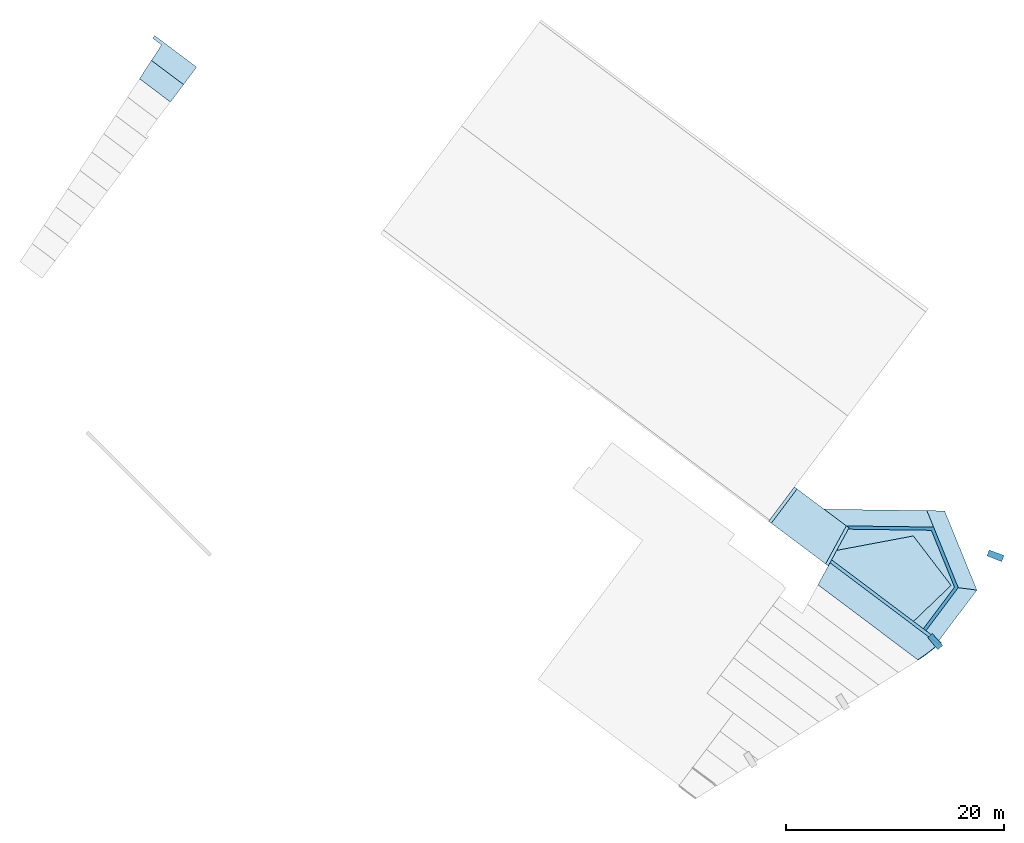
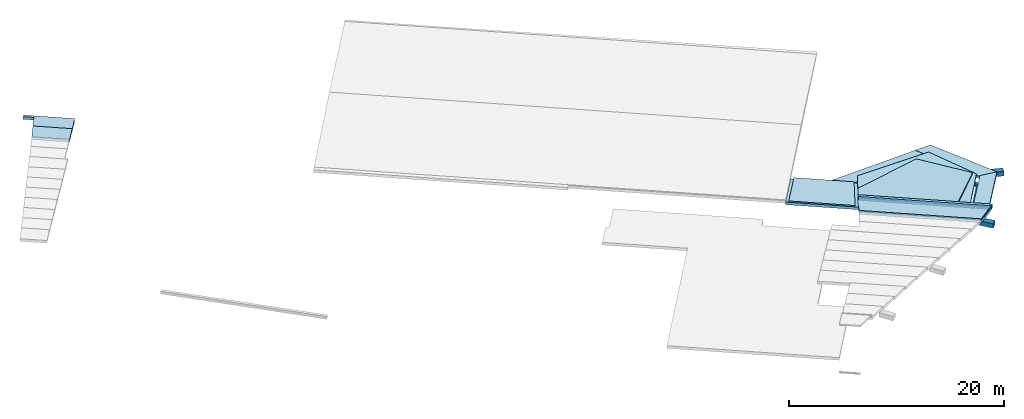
# One storey, part 2 of 2: 16 slabs.
"""IFC2X3 building model written with IfcOpenShell, lengths in metres."""

import ifcopenshell
import ifcopenshell.guid

model = None  # the IFC model being written
_history = None  # IfcOwnerHistory: only IFC2X3 demands one
_inside = {}  # id of a spatial element -> (the spatial element, [elements in it])
_under = {}  # id of a project, library or spatial element -> (it, [spatial elements below it])
_declared = {}  # id of a project -> (the project, [libraries it declares])
_typed = {}  # id of a type object -> (the type object, [elements of that type])
_made_of = {}  # id of a material, layer set ... -> (it, [elements and type objects made of it])


def new_model(schema):
    """Start an empty IFC model of exactly this schema.

    Asked for "IFC4X3", IfcOpenShell would pick the latest addendum, in which some entities
    have other attributes; the version numbers below select the first issue.
    IFC2X3 requires an IfcOwnerHistory on every rooted entity: one is made here for all.
    """
    global model, _history
    if schema == "IFC4X3":
        model = ifcopenshell.file(schema_version=(4, 3, 0, 0))
    else:
        model = ifcopenshell.file(schema=schema)
    _inside.clear()
    _under.clear()
    _declared.clear()
    _typed.clear()
    _made_of.clear()
    _history = None
    if model.schema == "IFC2X3":
        org = make("IfcOrganization", Name="unknown")
        user = make(
            "IfcPersonAndOrganization",
            ThePerson=make("IfcPerson", FamilyName="unknown"),
            TheOrganization=org,
        )
        app = make(
            "IfcApplication",
            ApplicationDeveloper=org,
            Version="unknown",
            ApplicationFullName="unknown",
            ApplicationIdentifier="unknown",
        )
        _history = make(
            "IfcOwnerHistory",
            OwningUser=user,
            OwningApplication=app,
            ChangeAction="ADDED",
            CreationDate=0,
        )
    return model


def make(cls, **values):
    """One entity of the class cls with the attributes given. An attribute that is None is left unset."""
    return model.create_entity(
        cls, **{name: value for name, value in values.items() if value is not None}
    )


def entity(cls, *values):
    """Any entity or typed value of the class cls, its attributes in the order of the schema. None: left unset."""
    e = model.create_entity(cls)
    for i, value in enumerate(values):
        if value is not None:
            e[i] = value
    return e


def rooted(cls, **values):
    """An entity with a GlobalId (a new one), such as an element, a storey or a relation."""
    return make(cls, GlobalId=ifcopenshell.guid.new(), OwnerHistory=_history, **values)


def si_unit(unit_type, name, prefix=None):
    """IfcSIUnit, for example si_unit("LENGTHUNIT", "METRE", prefix="MILLI")."""
    return make("IfcSIUnit", UnitType=unit_type, Prefix=prefix, Name=name)


def converted_unit(unit_type, name, factor, base, dimensions=None, offset=None):
    """IfcConversionBasedUnit, such as the inch: factor (a typed value) times the base unit."""
    return make(
        "IfcConversionBasedUnit"
        if offset is None
        else "IfcConversionBasedUnitWithOffset",
        ConversionOffset=offset,
        Dimensions=None
        if dimensions is None
        else entity("IfcDimensionalExponents", *dimensions),
        UnitType=unit_type,
        Name=name,
        ConversionFactor=make(
            "IfcMeasureWithUnit", ValueComponent=factor, UnitComponent=base
        ),
    )


def derived_unit(unit_type, elements):
    """IfcDerivedUnit: a product of units, each with its exponent."""
    return make(
        "IfcDerivedUnit",
        Elements=[
            make("IfcDerivedUnitElement", Unit=unit, Exponent=power)
            for unit, power in elements
        ],
        UnitType=unit_type,
    )


def assignment(units):
    """IfcUnitAssignment: the units of a project."""
    return None if units is None else make("IfcUnitAssignment", Units=units)


def point(xyz):
    """IfcCartesianPoint."""
    return None if xyz is None else make("IfcCartesianPoint", Coordinates=xyz)


def direction(xyz):
    """IfcDirection."""
    return None if xyz is None else make("IfcDirection", DirectionRatios=xyz)


def frame(location, z_axis=None, x_axis=None):
    """IfcAxis2Placement3D, a coordinate frame: its origin and axes. An axis left out is left unset."""
    return make(
        "IfcAxis2Placement3D",
        Location=point(location),
        Axis=direction(z_axis),
        RefDirection=direction(x_axis),
    )


def frame_2d(location, x_axis=None):
    """IfcAxis2Placement2D, a coordinate frame in the plane: its origin and x axis."""
    return make(
        "IfcAxis2Placement2D", Location=point(location), RefDirection=direction(x_axis)
    )


def origin():
    """The frame at (0, 0, 0) with its axes left unset."""
    return frame((0.0, 0.0, 0.0))


def place(relative_to, where):
    """IfcLocalPlacement: puts the frame where relative to a parent placement (None: the world)."""
    return make(
        "IfcLocalPlacement", PlacementRelTo=relative_to, RelativePlacement=where
    )


def context(
    kind, dimensions, precision=None, world=None, true_north=None, identifier=None
):
    """IfcGeometricRepresentationContext, for example the 3D "Model" context."""
    return make(
        "IfcGeometricRepresentationContext",
        ContextIdentifier=identifier,
        ContextType=kind,
        CoordinateSpaceDimension=dimensions,
        Precision=precision,
        WorldCoordinateSystem=world,
        TrueNorth=true_north,
    )


def subcontext(parent, identifier, kind, view, scale=None):
    """IfcGeometricRepresentationSubContext, for example "Body" below "Model"."""
    return make(
        "IfcGeometricRepresentationSubContext",
        ContextIdentifier=identifier,
        ContextType=kind,
        ParentContext=parent,
        TargetScale=scale,
        TargetView=view,
    )


def project(units=None, contexts=None):
    """IfcProject with its units and contexts."""
    return rooted(
        "IfcProject",
        Name="project",
        RepresentationContexts=contexts,
        UnitsInContext=assignment(units),
    )


def spatial(cls, under=None, at=None, **own):
    """A site, building, storey or space (cls), placed at a placement, below another one or the project."""
    s = rooted(cls, ObjectPlacement=at, **own)
    if under is not None:
        _under.setdefault(under.id(), (under, []))[1].append(s)
    return s


def polyline(points):
    """IfcPolyline through the points."""
    return make("IfcPolyline", Points=[point(p) for p in points])


def circle_curve(where, radius):
    """IfcCircle in the frame where."""
    return make("IfcCircle", Position=where, Radius=radius)


def ellipse_curve(where, semi_axis1, semi_axis2):
    """IfcEllipse in the frame where."""
    return make(
        "IfcEllipse", Position=where, SemiAxis1=semi_axis1, SemiAxis2=semi_axis2
    )


def parameter(value):
    """IfcParameterValue: where a trimmed curve begins or ends, as a parameter of its basis curve."""
    return model.create_entity("IfcParameterValue", value)


def trimmed(basis, trim1, trim2, sense, master):
    """IfcTrimmedCurve: the piece of a basis curve between two trims."""
    return make(
        "IfcTrimmedCurve",
        BasisCurve=basis,
        Trim1=trim1,
        Trim2=trim2,
        SenseAgreement=sense,
        MasterRepresentation=master,
    )


def segment(curve, same_sense, transition):
    """IfcCompositeCurveSegment."""
    return make(
        "IfcCompositeCurveSegment",
        Transition=transition,
        SameSense=same_sense,
        ParentCurve=curve,
    )


def composite_curve(segments, self_intersect=None):
    """IfcCompositeCurve: segments joined end to end."""
    return make("IfcCompositeCurve", Segments=segments, SelfIntersect=self_intersect)


def outline(outer, holes=None, kind="AREA"):
    """IfcArbitraryClosedProfileDef: a profile drawn as a closed curve; with holes, ...WithVoids."""
    if holes is None:
        return make("IfcArbitraryClosedProfileDef", ProfileType=kind, OuterCurve=outer)
    return make(
        "IfcArbitraryProfileDefWithVoids",
        ProfileType=kind,
        OuterCurve=outer,
        InnerCurves=holes,
    )


def extrude(swept, where, along, depth):
    """IfcExtrudedAreaSolid: the profile swept, set in the frame where, extruded along a direction by depth."""
    return make(
        "IfcExtrudedAreaSolid",
        SweptArea=swept,
        Position=where,
        ExtrudedDirection=direction(along),
        Depth=depth,
    )


def clip(a, b, op="DIFFERENCE"):
    """IfcBooleanClippingResult: the solid a cut by the half space b."""
    return make(
        "IfcBooleanClippingResult", Operator=op, FirstOperand=a, SecondOperand=b
    )


def halfspace(plane, agree):
    """IfcHalfSpaceSolid: all space on one side of the plane z = 0 of the frame plane."""
    return make(
        "IfcHalfSpaceSolid",
        BaseSurface=make("IfcPlane", Position=plane),
        AgreementFlag=agree,
    )


def shape(context_of_items, identifier, shape_type, items):
    """IfcShapeRepresentation: the items that make up one representation, for example the "Body"."""
    return make(
        "IfcShapeRepresentation",
        ContextOfItems=context_of_items,
        RepresentationIdentifier=identifier,
        RepresentationType=shape_type,
        Items=items,
    )


def material(Name=None, Category=None):
    """IfcMaterial."""
    return make("IfcMaterial", Name=Name, Category=Category)


def layer(
    of_material, thickness, ventilated=None, Name=None, Category=None, Priority=None
):
    """IfcMaterialLayer: one layer of a wall or slab, of a material (None: an air gap)."""
    return make(
        "IfcMaterialLayer",
        Material=of_material,
        LayerThickness=thickness,
        IsVentilated=ventilated,
        Name=Name,
        Category=Category,
        Priority=Priority,
    )


def layer_set(layers, Name=None):
    """IfcMaterialLayerSet."""
    return make("IfcMaterialLayerSet", MaterialLayers=layers, LayerSetName=Name)


def layer_usage(for_layer_set, set_direction, sense, offset, extent=None):
    """IfcMaterialLayerSetUsage: how a layer set lies in its element."""
    return make(
        "IfcMaterialLayerSetUsage",
        ForLayerSet=for_layer_set,
        LayerSetDirection=set_direction,
        DirectionSense=sense,
        OffsetFromReferenceLine=offset,
        ReferenceExtent=extent,
    )


def made_of(thing, what):
    """Note that an element or type object is made of a material, layer set ...; save() writes the relation."""
    if what is not None:
        _made_of.setdefault(what.id(), (what, []))[1].append(thing)
    return thing


def type_object(cls, material=None, **own):
    """A type object (cls), such as IfcWallType, which elements share."""
    return made_of(rooted(cls, **own), material)


def element(
    cls,
    number,
    at=None,
    inside=None,
    cuts=None,
    type_object=None,
    material=None,
    context=None,
    identifier="Body",
    shape_type=None,
    held_by="IfcProductDefinitionShape",
    body=None,
    shapes=None,
    **own,
):
    """One element of the class cls, such as IfcWall. Its Tag is "e" and its number.

    at: its placement. inside: the storey or other place that contains it. cuts: it is an
    opening in that element (IfcRelVoidsElement). A single representation is given by context,
    identifier, shape_type and body (its items); several are given by shapes. held_by: the class
    of the entity that holds the representations. save() writes the other relations.
    """
    e = rooted(cls, Tag="e%d" % number, ObjectPlacement=at, **own)
    if body is not None:
        shapes = [shape(context, identifier, shape_type, body)]
    if shapes is not None:
        e.Representation = make(held_by, Representations=shapes)
    if inside is not None:
        _inside.setdefault(inside.id(), (inside, []))[1].append(e)
    if cuts is not None:
        rooted(
            "IfcRelVoidsElement", RelatingBuildingElement=cuts, RelatedOpeningElement=e
        )
    if type_object is not None:
        _typed.setdefault(type_object.id(), (type_object, []))[1].append(e)
    return made_of(e, material)


def aggregate(whole, parts):
    """IfcRelAggregates: a whole, such as a stair, and the parts it consists of."""
    return rooted("IfcRelAggregates", RelatingObject=whole, RelatedObjects=parts)


def save(model, path):
    """Write the relations noted so far, then the file.

    IfcRelAggregates (storeys below a building ...), IfcRelContainedInSpatialStructure (elements
    in a storey), IfcRelDefinesByType, IfcRelAssociatesMaterial and IfcRelDeclares: one each for
    every whole, place, type object, material and project.
    """
    for whole, parts in _under.values():
        aggregate(whole, parts)
    for where, things in _inside.values():
        rooted(
            "IfcRelContainedInSpatialStructure",
            RelatedElements=things,
            RelatingStructure=where,
        )
    for kind, things in _typed.values():
        rooted("IfcRelDefinesByType", RelatedObjects=things, RelatingType=kind)
    for what, things in _made_of.values():
        rooted("IfcRelAssociatesMaterial", RelatedObjects=things, RelatingMaterial=what)
    for by, libraries in _declared.values():
        rooted("IfcRelDeclares", RelatingContext=by, RelatedDefinitions=libraries)
    model.write(path)


model = new_model("IFC2X3")

# Units and contexts
model_context = context("Model", 3, precision=1e-05, world=origin(), true_north=direction((6.123031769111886e-17, 1.0)))
body_context = subcontext(model_context, "Body", "Model", "MODEL_VIEW")
ifc_project = project(units=[si_unit("LENGTHUNIT", "METRE"), si_unit("AREAUNIT", "SQUARE_METRE"), si_unit("VOLUMEUNIT", "CUBIC_METRE"), converted_unit("PLANEANGLEUNIT", "DEGREE", entity("IfcRatioMeasure", 0.017453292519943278), si_unit("PLANEANGLEUNIT", "RADIAN"), dimensions=[0, 0, 0, 0, 0, 0, 0]), si_unit("MASSUNIT", "GRAM", prefix="KILO"), derived_unit("MASSDENSITYUNIT", [(si_unit("MASSUNIT", "GRAM", prefix="KILO"), 1), (si_unit("LENGTHUNIT", "METRE"), -3)]), derived_unit("IONCONCENTRATIONUNIT", [(si_unit("MASSUNIT", "GRAM", prefix="KILO"), 1), (si_unit("LENGTHUNIT", "METRE"), -3)]), derived_unit("MOMENTOFINERTIAUNIT", [(si_unit("LENGTHUNIT", "METRE"), 4)]), si_unit("TIMEUNIT", "SECOND"), si_unit("FREQUENCYUNIT", "HERTZ"), si_unit("THERMODYNAMICTEMPERATUREUNIT", "DEGREE_CELSIUS"), derived_unit("THERMALTRANSMITTANCEUNIT", [(si_unit("MASSUNIT", "GRAM", prefix="KILO"), 1), (si_unit("THERMODYNAMICTEMPERATUREUNIT", "KELVIN"), -1), (si_unit("TIMEUNIT", "SECOND"), -3)]), derived_unit("THERMALCONDUCTANCEUNIT", [(si_unit("MASSUNIT", "GRAM", prefix="KILO"), 1), (si_unit("THERMODYNAMICTEMPERATUREUNIT", "KELVIN"), -1), (si_unit("TIMEUNIT", "SECOND"), -3), (si_unit("LENGTHUNIT", "METRE"), 1)]), derived_unit("VOLUMETRICFLOWRATEUNIT", [(si_unit("LENGTHUNIT", "METRE"), 3), (si_unit("TIMEUNIT", "SECOND"), -1)]), derived_unit("MASSFLOWRATEUNIT", [(si_unit("MASSUNIT", "GRAM", prefix="KILO"), 1), (si_unit("TIMEUNIT", "SECOND"), -1)]), derived_unit("ROTATIONALFREQUENCYUNIT", [(si_unit("TIMEUNIT", "SECOND"), -1)]), si_unit("ELECTRICCURRENTUNIT", "AMPERE"), si_unit("ELECTRICVOLTAGEUNIT", "VOLT"), si_unit("POWERUNIT", "WATT"), si_unit("FORCEUNIT", "NEWTON", prefix="KILO"), si_unit("ILLUMINANCEUNIT", "LUX"), si_unit("LUMINOUSFLUXUNIT", "LUMEN"), si_unit("LUMINOUSINTENSITYUNIT", "CANDELA"), derived_unit("USERDEFINED", [(si_unit("MASSUNIT", "GRAM", prefix="KILO"), -1), (si_unit("LENGTHUNIT", "METRE"), -2), (si_unit("TIMEUNIT", "SECOND"), 3), (si_unit("LUMINOUSFLUXUNIT", "LUMEN"), 1)]), derived_unit("USERDEFINED", [(si_unit("MASSUNIT", "GRAM", prefix="KILO"), 1), (si_unit("TIMEUNIT", "SECOND"), -3), (si_unit("LENGTHUNIT", "METRE"), 3), (si_unit("ELECTRICCURRENTUNIT", "AMPERE"), -2)]), derived_unit("SOUNDPOWERUNIT", [(si_unit("MASSUNIT", "GRAM", prefix="KILO"), 1), (si_unit("TIMEUNIT", "SECOND"), -3), (si_unit("LENGTHUNIT", "METRE"), 2)]), derived_unit("SOUNDPRESSUREUNIT", [(si_unit("MASSUNIT", "GRAM", prefix="KILO"), 1), (si_unit("LENGTHUNIT", "METRE"), -1), (si_unit("TIMEUNIT", "SECOND"), -2)]), derived_unit("LINEARVELOCITYUNIT", [(si_unit("LENGTHUNIT", "METRE"), 1), (si_unit("TIMEUNIT", "SECOND"), -1)]), si_unit("PRESSUREUNIT", "PASCAL"), derived_unit("USERDEFINED", [(si_unit("MASSUNIT", "GRAM", prefix="KILO"), 1), (si_unit("LENGTHUNIT", "METRE"), -2), (si_unit("TIMEUNIT", "SECOND"), -2)]), derived_unit("LINEARFORCEUNIT", [(si_unit("MASSUNIT", "GRAM", prefix="KILO"), 1), (si_unit("TIMEUNIT", "SECOND"), -2)]), derived_unit("PLANARFORCEUNIT", [(si_unit("MASSUNIT", "GRAM", prefix="KILO"), 1), (si_unit("LENGTHUNIT", "METRE"), -1), (si_unit("TIMEUNIT", "SECOND"), -2)]), derived_unit("SPECIFICHEATCAPACITYUNIT", [(si_unit("THERMODYNAMICTEMPERATUREUNIT", "KELVIN"), -1), (si_unit("LENGTHUNIT", "METRE"), 2), (si_unit("TIMEUNIT", "SECOND"), -2)]), derived_unit("HEATINGVALUEUNIT", [(si_unit("LENGTHUNIT", "METRE"), 2), (si_unit("TIMEUNIT", "SECOND"), -2)]), derived_unit("VAPORPERMEABILITYUNIT", [(si_unit("LENGTHUNIT", "METRE"), -1), (si_unit("TIMEUNIT", "SECOND"), 1)]), derived_unit("DYNAMICVISCOSITYUNIT", [(si_unit("MASSUNIT", "GRAM", prefix="KILO"), 1), (si_unit("TIMEUNIT", "SECOND"), -1), (si_unit("LENGTHUNIT", "METRE"), -1)]), derived_unit("THERMALEXPANSIONCOEFFICIENTUNIT", [(si_unit("THERMODYNAMICTEMPERATUREUNIT", "KELVIN"), -1)]), derived_unit("MODULUSOFELASTICITYUNIT", [(si_unit("MASSUNIT", "GRAM", prefix="KILO"), 1), (si_unit("LENGTHUNIT", "METRE"), -1), (si_unit("TIMEUNIT", "SECOND"), -2)]), derived_unit("ISOTHERMALMOISTURECAPACITYUNIT", [(si_unit("LENGTHUNIT", "METRE"), 3), (si_unit("MASSUNIT", "GRAM", prefix="KILO"), -1)]), derived_unit("MOISTUREDIFFUSIVITYUNIT", [(si_unit("TIMEUNIT", "SECOND"), -1), (si_unit("LENGTHUNIT", "METRE"), 2)])], contexts=[model_context])

# Site, building, storey
site_placement = place(None, origin())
site = spatial("IfcSite", under=ifc_project, at=site_placement, Name="Superficie", CompositionType="ELEMENT")
building_placement = place(site_placement, frame((0.0, 0.0, 235.0), z_axis=(0.0, 0.0, 1.0), x_axis=(-0.7996477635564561, 0.6004693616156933, 0.0)))
building = spatial("IfcBuilding", under=site, at=building_placement, CompositionType="ELEMENT")
storey_placement = place(building_placement, frame((0.0, 0.0, -5.4499999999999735)))
storey = spatial("IfcBuildingStorey", under=building, at=storey_placement, Name="PS1- Gimnàs", CompositionType="ELEMENT", Elevation=-5.4499999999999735)

# Slabs
ifc_material_1 = material(Name="_Topografia- Plataformes")
ifc_layer_1 = layer(ifc_material_1, 0.29999999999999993)
ifc_layer_set_1 = layer_set([ifc_layer_1], Name="Plataforma:300 mm")
ifc_layer_usage_1 = layer_usage(ifc_layer_set_1, "AXIS3", "POSITIVE", 0.0)
slab_type_1 = type_object("IfcSlabType", Name="Plataforma:300 mm", PredefinedType="FLOOR", material=ifc_layer_set_1)
slab_1_placement = place(storey_placement, frame((-9.46451760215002, -50.63325695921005, 0.3067704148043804)))
element("IfcSlab", 1, at=slab_1_placement, inside=storey, type_object=slab_type_1, material=ifc_layer_usage_1, Name="Plataforma:300 mm", ObjectType="Plataforma:300 mm", PredefinedType="FLOOR", context=body_context, shape_type="SweptSolid", body=[
    extrude(outline(polyline([(-4.829427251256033, -2.896915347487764), (-4.829427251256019, -7.660011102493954), (5.692533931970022, -7.660011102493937), (6.155302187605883, -4.493083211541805), (0.0, 0.0), (-4.829427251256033, -2.896915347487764)])), frame((4.829427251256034, 0.0, 0.4532295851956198), z_axis=(0.0, -0.01999600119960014, -0.999800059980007), x_axis=(1.0, 0.0, 0.0)), (0.0, -0.01999600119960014, 0.999800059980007), 0.30005999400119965),
])
slab_2_placement = place(storey_placement, frame((0.9646960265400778, -46.276730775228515, -0.5869955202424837)))
element("IfcSlab", 2, at=slab_2_placement, inside=storey, type_object=slab_type_1, material=ifc_layer_usage_1, Name="Plataforma:300 mm", ObjectType="Plataforma:300 mm", PredefinedType="FLOOR", context=body_context, shape_type="SweptSolid", body=[
    extrude(outline(polyline([(-3.423212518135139, 0.0), (-2.8478695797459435, -3.937326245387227), (3.407239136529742, -3.9373262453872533), (3.407239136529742, 0.0), (-3.423212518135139, 0.0)])), frame((3.423212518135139, 3.9365390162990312, 0.37879077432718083), z_axis=(0.0, -0.01999600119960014, 0.999800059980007), x_axis=(1.0, 0.0, 0.0)), (0.0, -0.01999600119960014, -0.999800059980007), 0.30005999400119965),
])
slab_3_placement = place(storey_placement, frame((-11.479473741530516, -42.67477739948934, 0.30594000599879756)))
element("IfcSlab", 3, at=slab_3_placement, inside=storey, type_object=slab_type_1, material=ifc_layer_usage_1, Name="Plataforma:300 mm", ObjectType="Plataforma:300 mm", PredefinedType="FLOOR", context=body_context, shape_type="SweptSolid", body=[
    extrude(outline(composite_curve([segment(polyline([(6.534618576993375, -2.28504251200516), (6.868521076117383, 0.0)]), True, "CONTINUOUS"), segment(polyline([(6.868521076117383, 0.0), (-5.624549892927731, 0.0)]), True, "CONTINUOUS"), segment(trimmed(ellipse_curve(frame_2d((13.90183999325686, 4.327538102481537), x_axis=(1.0, 0.0)), 19.99999999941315, 20.003999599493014), [parameter(192.49378095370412)], [parameter(199.30294628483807)], True, "PARAMETER"), True, "CONTINUOUS"), segment(polyline([(-4.973839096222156, -2.2850425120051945), (6.534618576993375, -2.28504251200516)]), True, "CONTINUOUS")], self_intersect=False)), frame((5.624549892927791, 0.0, 0.30005999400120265), z_axis=(0.0, 0.01999600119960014, -0.999800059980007), x_axis=(1.0, 0.0, 0.0)), (0.0, 0.01999600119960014, 0.999800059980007), 0.30005999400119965),
])
slab_4_placement = place(storey_placement, origin())
element("IfcSlab", 4, at=slab_4_placement, inside=storey, type_object=slab_type_1, material=ifc_layer_usage_1, Name="Plataforma:300 mm", ObjectType="Plataforma:300 mm", PredefinedType="FLOOR", context=body_context, shape_type="SweptSolid", body=[
    extrude(outline(polyline([(-6.301650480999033, -0.14999999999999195), (6.294138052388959, -0.14999999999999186), (6.250291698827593, 0.1499999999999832), (-6.242779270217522, 0.15000000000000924), (-6.301650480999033, -0.14999999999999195)])), frame((-5.2366944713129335, -42.82477739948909, 0.3059999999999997)), (0.0, 0.0, 1.0), 0.2999999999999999),
])
slab_5_placement = place(storey_placement, frame((-11.264517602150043, -52.790557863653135, -0.2714253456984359)))
element("IfcSlab", 5, at=slab_5_placement, inside=storey, type_object=slab_type_1, material=ifc_layer_usage_1, Name="Plataforma:300 mm", ObjectType="Plataforma:300 mm", PredefinedType="FLOOR", context=body_context, shape_type="SweptSolid", body=[
    extrude(outline(polyline([(0.6584924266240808, -0.4800507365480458), (-0.6584924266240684, 0.48005073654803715), (-7.392629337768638, -3.5542046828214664), (-5.890998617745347, -4.403689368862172), (0.6584924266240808, -0.4800507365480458)])), frame((7.384601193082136, 0.480050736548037, 0.3129281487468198), z_axis=(-0.0465913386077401, 0.0, -0.9989140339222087), x_axis=(0.9989140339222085, 0.0, -0.04659133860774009)), (0.04659133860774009, 0.0, 0.9989140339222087), 0.30032614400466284),
])
slab_6_placement = place(storey_placement, frame((-4.618857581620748, -51.83045639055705, -0.646719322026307)))
element("IfcSlab", 6, at=slab_6_placement, inside=storey, type_object=slab_type_1, material=ifc_layer_usage_1, Name="Plataforma:300 mm", ObjectType="Plataforma:300 mm", PredefinedType="FLOOR", context=body_context, shape_type="SweptSolid", body=[
    extrude(outline(polyline([(1.4481689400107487, 0.0), (-6.171007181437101, 5.553725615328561), (-7.5694371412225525, 4.7160763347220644), (-1.0994350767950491, 0.0), (1.4481689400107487, 0.0)])), frame((7.5601733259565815, 5.553725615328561, 0.3469736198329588), z_axis=(-0.049458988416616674, 0.0, -0.9987761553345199), x_axis=(0.9987761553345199, 0.0, -0.049458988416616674)), (0.049458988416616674, 0.0, 0.9987761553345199), 0.30036760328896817),
])
slab_7_placement = place(storey_placement, frame((-11.264517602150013, -48.75630244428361, 0.07535949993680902)))
element("IfcSlab", 7, at=slab_7_placement, inside=storey, type_object=slab_type_1, material=ifc_layer_usage_1, Name="Plataforma:300 mm", ObjectType="Plataforma:300 mm", PredefinedType="FLOOR", context=body_context, shape_type="SweptSolid", body=[
    extrude(outline(polyline([(-0.7500000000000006, 0.42508200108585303), (-0.7499999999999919, -5.361066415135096), (0.7500000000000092, -5.361066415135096), (0.7500000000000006, -0.42508200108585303), (-0.7500000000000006, 0.42508200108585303)])), frame((0.7500000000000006, 0.42474234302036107, 0.3172295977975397), z_axis=(0.0, 0.03996803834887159, -0.9992009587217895), x_axis=(1.0, 0.0, 0.0)), (0.0, 0.03996803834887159, 0.9992009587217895), 0.3002399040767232),
])
slab_8_placement = place(storey_placement, frame((74.74514768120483, -44.14019175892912, 2.098562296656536)))
element("IfcSlab", 8, at=slab_8_placement, inside=storey, type_object=slab_type_1, material=ifc_layer_usage_1, Name="Plataforma:300 mm", ObjectType="Plataforma:300 mm", PredefinedType="FLOOR", context=body_context, shape_type="SweptSolid", body=[
    extrude(outline(polyline([(1.3927724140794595, -0.300958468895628), (2.3998871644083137, -0.300958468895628), (2.3998871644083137, 0.0), (-2.399887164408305, 0.0), (-2.399887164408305, -2.006389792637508), (1.2808184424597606, -2.0063897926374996), (1.3927724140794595, -0.300958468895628)])), frame((2.399887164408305, 0.0, 0.3009584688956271), z_axis=(0.0, 0.07974522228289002, -0.9968152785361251), x_axis=(1.0, 0.0, 0.0)), (0.0, 0.07974522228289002, 0.9968152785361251), 0.3009584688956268),
])
slab_9_placement = place(storey_placement, frame((74.74514768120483, -42.140191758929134, 2.3415622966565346)))
element("IfcSlab", 9, at=slab_9_placement, inside=storey, type_object=slab_type_1, material=ifc_layer_usage_1, Name="Plataforma:300 mm", ObjectType="Plataforma:300 mm", PredefinedType="FLOOR", context=body_context, shape_type="SweptSolid", body=[
    extrude(outline(polyline([(1.2808184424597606, 0.0), (-2.399887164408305, 0.0), (-2.399887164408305, -2.006389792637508), (1.1491078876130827, -2.0063897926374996), (1.2808184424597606, 0.0)])), frame((2.399887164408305, 0.0, 0.3009584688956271), z_axis=(0.0, 0.07974522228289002, -0.9968152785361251), x_axis=(1.0, 0.0, 0.0)), (0.0, 0.07974522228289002, 0.9968152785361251), 0.3009584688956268),
])
slab_10_placement = place(storey_placement, origin())
element("IfcSlab", 10, at=slab_10_placement, inside=storey, type_object=slab_type_1, material=ifc_layer_usage_1, Name="Plataforma:300 mm", ObjectType="Plataforma:300 mm", PredefinedType="FLOOR", context=body_context, shape_type="SweptSolid", body=[
    extrude(outline(polyline([(-2.3137551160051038, -3.4038581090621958), (5.686238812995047, -3.403858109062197), (5.441335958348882, -3.22512620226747), (5.505292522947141, -3.1038581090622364), (-2.1149089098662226, -3.1038581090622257), (-4.30851322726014, 2.0826851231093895), (-1.5011821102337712, 5.92935926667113), (-1.743510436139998, 6.106212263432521), (-4.650997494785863, 2.1223019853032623), (-2.3137551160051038, -3.4038581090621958)])), frame((-4.7565045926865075, -46.879321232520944, -0.8), z_axis=(0.0, 0.0, 1.0), x_axis=(0.8077610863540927, 0.5895099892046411, 0.0)), (0.0, 0.0, 1.0), 0.30000000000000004),
])
ifc_material_2 = material(Name="_Formigó- Solera- T1- STR")
ifc_layer_2 = layer(ifc_material_2, 0.14999999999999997)
ifc_layer_set_2 = layer_set([ifc_layer_2], Name="Suelo:STR- L- Formigó- Solera- T1- 15 cm")
ifc_layer_usage_2 = layer_usage(ifc_layer_set_2, "AXIS3", "POSITIVE", 0.0)
slab_type_2 = type_object("IfcSlabType", Name="Suelo:STR- L- Formigó- Solera- T1- 15 cm", PredefinedType="FLOOR", material=ifc_layer_set_2)
slab_11_placement = place(storey_placement, origin())
element("IfcSlab", 11, at=slab_11_placement, inside=storey, type_object=slab_type_2, material=ifc_layer_usage_2, Name="Suelo:STR- L- Formigó- Solera- T1- 15 cm", ObjectType="Suelo:STR- L- Formigó- Solera- T1- 15 cm", PredefinedType="FLOOR", context=body_context, shape_type="SweptSolid", body=[
    clip(clip(extrude(outline(polyline([(-1.9686668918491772, -2.9697964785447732), (1.9686593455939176, -2.9697964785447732), (1.9686665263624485, 2.6821250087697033), (-1.9686589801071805, 3.257467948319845), (-1.9686668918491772, -2.9697964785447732)])), frame((4.525351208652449, -44.30846126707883, -0.09786251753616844), z_axis=(6.352534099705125e-05, 0.01999590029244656, -0.9998000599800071), x_axis=(0.0, -0.9998000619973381, -0.019995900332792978)), (0.019995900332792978, 6.351263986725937e-05, 0.9998000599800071), 0.15006000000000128), halfspace(frame((4.599543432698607, -42.32764559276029, -0.20827168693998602), z_axis=(6.352534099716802e-05, 0.019995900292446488, -0.9998000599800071), x_axis=(-0.0031762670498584, -0.9997950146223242, -0.01999600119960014)), False)), halfspace(frame((4.599543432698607, -42.32764559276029, -0.05824168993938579), z_axis=(-6.352534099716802e-05, -0.019995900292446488, 0.9998000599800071), x_axis=(0.0031762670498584, 0.9997950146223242, 0.01999600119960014)), False)),
])
slab_12_placement = place(storey_placement, origin())
element("IfcSlab", 12, at=slab_12_placement, inside=storey, type_object=slab_type_2, material=ifc_layer_usage_2, Name="Suelo:STR- L- Formigó- Solera- T1- 15 cm", ObjectType="Suelo:STR- L- Formigó- Solera- T1- 15 cm", PredefinedType="FLOOR", context=body_context, shape_type="SweptSolid", body=[
    extrude(outline(polyline([(-6.29413698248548, -0.15004272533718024), (6.301651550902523, -0.15004272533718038), (6.242763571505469, 0.150042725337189), (-6.250278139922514, 0.15004272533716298), (-6.29413698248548, -0.15004272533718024)])), frame((-5.236693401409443, -42.824734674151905, 0.7559999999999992), z_axis=(0.0, 0.0, -1.0), x_axis=(-1.0, 0.0, 0.0)), (0.0, 0.0, 1.0), 0.15000000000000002),
])
ifc_material_3 = material(Name="_Saulo T1- PAV")
ifc_layer_3 = layer(ifc_material_3, 0.14999999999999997)
ifc_layer_set_3 = layer_set([ifc_layer_3], Name="Suelo:PAV- Saulo- 15 cm- T1")
ifc_layer_usage_3 = layer_usage(ifc_layer_set_3, "AXIS3", "POSITIVE", 0.0)
slab_type_3 = type_object("IfcSlabType", Name="Suelo:PAV- Saulo- 15 cm- T1", PredefinedType="FLOOR", material=ifc_layer_set_3)
slab_13_placement = place(storey_placement, frame((-11.424740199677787, -42.67477739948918, 0.6060057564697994)))
element("IfcSlab", 13, at=slab_13_placement, inside=storey, type_object=slab_type_3, material=ifc_layer_usage_3, Name="Suelo:PAV- Saulo- 15 cm- T1", ObjectType="Suelo:PAV- Saulo- 15 cm- T1", PredefinedType="FLOOR", context=body_context, shape_type="SweptSolid", body=[
    extrude(outline(composite_curve([segment(polyline([(-5.576808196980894, -2.285042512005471), (6.8615417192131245, -2.2850425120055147)]), True, "CONTINUOUS"), segment(polyline([(6.8615417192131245, -2.2850425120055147), (6.527639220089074, 0.0)]), True, "CONTINUOUS"), segment(polyline([(6.527639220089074, 0.0), (-4.927687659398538, 0.0)]), True, "CONTINUOUS"), segment(trimmed(ellipse_curve(frame_2d((13.615037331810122, -6.5043651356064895), x_axis=(1.0, 0.0)), 19.64999999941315, 19.653929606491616), [parameter(160.67387103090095)], [parameter(167.6031949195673)], True, "PARAMETER"), True, "CONTINUOUS")], self_intersect=False)), frame((5.576808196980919, 2.284585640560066, 0.19572170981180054), z_axis=(0.0, -0.01999600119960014, 0.999800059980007), x_axis=(1.0, 0.0, 0.0)), (0.0, -0.01999600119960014, -0.999800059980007), 0.15002999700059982),
])
slab_14_placement = place(storey_placement, origin())
element("IfcSlab", 14, at=slab_14_placement, inside=storey, type_object=slab_type_3, material=ifc_layer_usage_3, Name="Suelo:PAV- Saulo- 15 cm- T1", ObjectType="Suelo:PAV- Saulo- 15 cm- T1", PredefinedType="FLOOR", context=body_context, shape_type="SweptSolid", body=[
    clip(clip(extrude(outline(polyline([(-4.577067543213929, -2.3889775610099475), (4.8199510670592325, -2.3889775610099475), (4.9630927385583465, -1.4093957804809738), (0.1421442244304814, 3.8641159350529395), (-5.348120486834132, 2.323234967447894), (-4.577067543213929, -2.3889775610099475)])), frame((-3.7627814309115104, -45.361402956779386, 0.8045929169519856), z_axis=(0.0, -0.019996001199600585, -0.999800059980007), x_axis=(1.0, 0.0, 0.0)), (0.0, -0.019996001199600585, 0.999800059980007), 0.15006000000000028), halfspace(frame((-5.847932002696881, -49.90400916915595, 0.745415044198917), z_axis=(0.0, -0.01999600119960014, -0.999800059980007), x_axis=(0.0, 0.999800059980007, -0.01999600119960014)), False)), halfspace(frame((-5.847932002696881, -49.90400916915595, 0.8954450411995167), z_axis=(0.0, 0.01999600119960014, 0.999800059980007), x_axis=(0.0, -0.999800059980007, 0.01999600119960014)), False)),
])
ifc_material_4 = material(Name="_Formigó- T1- STR")
slab_type_4 = type_object("IfcSlabType", Name="STR- Sabata- Unio sabata MP4:STR- Sabata- Unio sabata MP1", PredefinedType="BASESLAB", material=ifc_material_4)
slab_15_placement = place(storey_placement, frame((-11.815595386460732, -43.11817126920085, -1.475000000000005)))
element("IfcSlab", 15, at=slab_15_placement, inside=storey, type_object=slab_type_4, Name="STR- Sabata- Unio sabata MP4:STR- Sabata- Unio sabata MP1", ObjectType="STR- Sabata- Unio sabata MP4:STR- Sabata- Unio sabata MP1", PredefinedType="BASESLAB", context=body_context, shape_type="SweptSolid", body=[
    extrude(outline(composite_curve([segment(polyline([(-0.7206013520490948, -0.29114359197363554), (0.7293986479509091, -0.29114359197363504)]), True, "CONTINUOUS"), segment(trimmed(circle_curve(frame_2d((-19.270601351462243, -0.29114359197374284), x_axis=(0.8604584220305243, 0.5095206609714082)), 19.999999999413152), [parameter(329.368093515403)], [parameter(331.0992309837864)], True, "PARAMETER"), True, "CONTINUOUS"), segment(polyline([(0.7202704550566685, 0.31304544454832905), (-0.7290677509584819, 0.26924173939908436)]), True, "CONTINUOUS"), segment(trimmed(circle_curve(frame_2d((-19.270601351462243, -0.29114359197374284), x_axis=(0.8604584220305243, 0.509520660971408)), 18.54999999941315), [parameter(329.3680935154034)], [parameter(331.09923098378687)], True, "PARAMETER"), False, "CONTINUOUS")], self_intersect=False)), frame((0.7749921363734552, 0.43335150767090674, 0.0), z_axis=(0.0, 0.0, 1.0), x_axis=(-0.972457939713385, 0.2330784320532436, 0.0)), (0.0, 0.0, 1.0), 0.5000000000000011),
])
slab_type_5 = type_object("IfcSlabType", Name="STR- Sabata- Unio sabata MP5:STR- Sabata- Unio sabata MP1", PredefinedType="BASESLAB", material=ifc_material_4)
slab_16_placement = place(storey_placement, frame((-11.514692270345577, -52.793513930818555, -2.4799447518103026)))
element("IfcSlab", 16, at=slab_16_placement, inside=storey, type_object=slab_type_5, Name="STR- Sabata- Unio sabata MP5:STR- Sabata- Unio sabata MP1", ObjectType="STR- Sabata- Unio sabata MP5:STR- Sabata- Unio sabata MP1", PredefinedType="BASESLAB", context=body_context, shape_type="SweptSolid", body=[
    extrude(outline(composite_curve([segment(polyline([(-0.7205810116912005, -0.29181581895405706), (0.7294189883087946, -0.2918158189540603)]), True, "CONTINUOUS"), segment(trimmed(circle_curve(frame_2d((-19.270581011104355, -0.2918158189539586), x_axis=(0.9995414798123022, 0.03027920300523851)), 19.999999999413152), [parameter(358.26486425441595)], [parameter(359.99999999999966)], True, "PARAMETER"), True, "CONTINUOUS"), segment(polyline([(0.7202485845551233, 0.31376824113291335), (-0.7290865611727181, 0.2698633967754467)]), True, "CONTINUOUS"), segment(trimmed(circle_curve(frame_2d((-19.270581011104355, -0.2918158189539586), x_axis=(0.9450877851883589, 0.3268165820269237)), 18.549999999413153), [parameter(340.92433155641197)], [parameter(342.6594673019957)], True, "PARAMETER"), False, "CONTINUOUS")], self_intersect=False)), frame((0.7823463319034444, 0.49556032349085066, 0.0), z_axis=(0.0, 0.0, 1.0), x_axis=(-0.9640101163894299, -0.2658655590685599, 0.0)), (0.0, 0.0, 1.0), 0.5049447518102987),
])

save(model, "model.ifc")
